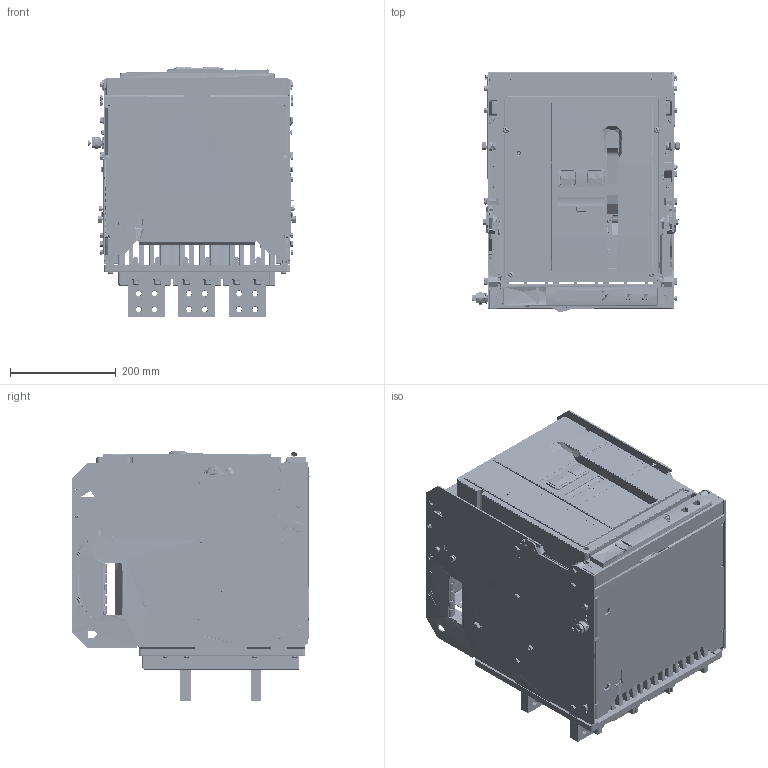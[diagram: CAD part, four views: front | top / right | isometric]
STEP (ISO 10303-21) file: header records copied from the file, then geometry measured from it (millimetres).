
FILE_DESCRIPTION (( 'STEP AP214' ), '1' );
FILE_NAME ('TeW5-2500_3P_Drawer(work).STEP', '2025-12-01T10:51:07', ( '' ), ( '' ), 'SwSTEP 2.0', 'SolidWorks 2024', '' );
FILE_SCHEMA (( 'AUTOMOTIVE_DESIGN' ));
Length unit declared in the file: millimetre
Products named in the file (93): 5TZD_558_1290_1_1_1_13.stp; 5TZD_558_1290_1_1_1_8.stp; GB_T9074_4-M6X40_1_1_1.stp; 8TZD_206_1394_1_1_1.stp; 8TZD_288_1020_1_1_2_ASM_1_ASM.stp; 5TZD_055_1033_ASM_1_1_ASM_1_ASM.stp; 8TZD_270_1052_1_1_1.stp; 8TZD_940_1003_1_1_1.stp; GB_T97_1_6_1_1_1.stp; 8TZD_206_1333_1_1_1.stp; 5TZD_558_1291_1_1_1.stp; 5TZD_558_1290_1_1_1_1.stp; 8TZD_580_1078_1_1_1_1.stp; 8TZD_024_6007_1_1_1.stp; 6TZD_229_1012_1_ASM_1_1_ASM_1_ASM.stp; 8TZD_161_1041_1_1_1.stp; GB_T93-6_1_1_1.stp; 5TZD_206_1001_ASM_1_1_ASM_1_ASM.stp; 5TZD_558_1290_1_1_1_14.stp; GB_T93-8_1_1_1.stp; 8TZD_001_1005_1_1_1.stp; 5TZD_020_1040_1_ASM_1_1_ASM_1_ASM.stp; GB_T819_1-M6X12_1_1_1.stp; 8TZD_940_1005_1_1_1.stp; 8TZD_206_1017_1_1_2_1_1.stp; 8TZD_288_1416_1_1_1.stp; 8TZD_064_1010_1_1_1.stp; 8TZD_206_1017_1_1_2_ASM_1_ASM.stp; GB_T70_1-M6X20_1_1_1.stp; 8TZD_005_1032_1_1_1.stp; 8TZD_231_1036_1_1_1.stp; 8TZD_043_1149_1_1_1.stp; 5TZD_558_1290_1_1_1_2.stp; ASM0001_ASM_1_ASM.stp; 5TZD_558_1290_1_1_1_10.stp; 5TZD_024_1257_ASM_1_1_ASM_1_ASM.stp; TeW5-2500_3P_Drawer(work); 5TZD_300_1055_ASM_1_1_ASM_1_ASM.stp; 5TZD_000_6000_1_1_1.stp; 5TZD_020_1039_ASM_1_1_ASM_1_ASM.stp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
Assembly tree (316 placements, depth 7):
  TeW5-2500_3P_Drawer(work)
    ASM0001_ASM_1_ASM.stp
      2TZD_257_1004_9_ASM_1_1_ASM_1_ASM.stp
        6TZD_229_1012_1_ASM_1_1_ASM_1_ASM.stp
          5TZD_020_1040_1_ASM_1_1_ASM_1_ASM.stp
            5TZD_020_1039_ASM_1_1_ASM_1_ASM.stp
              8TZD_020_1014_1_1_1.stp
              GB_T809-M6X12-B_1_1_1.stp  x24
            5TZD_260_1003_AF17_ASM_1_1_ASM__ASM.stp
              8TZD_001_1005_1_1_1.stp
              8TZD_311_1031_1_1_1.stp
            5TZD_260_1003_AF16_ASM_1_1_ASM__ASM.stp
              8TZD_001_1005_1_1_1.stp
              8TZD_311_1031_1_1_1.stp
            8TZD_580_1079_1_1_1_1.stp  x6
            GB_T819_1-M6X12_1_1_1.stp  x24
            8TZD_580_1078_1_1_1_1.stp  x6
            GB_T97_1_8_1_1_1.stp  x24
            GB_T93-8_1_1_1.stp  x24
            GB_T70_1-M8X25_1_1_1.stp  x24
          5TZD_300_1055_ASM_1_1_ASM_1_ASM.stp
            8TZD_300_1235_1_1_1.stp
            8TZD_270_1052_1_1_1.stp
            8TZD_270_1053_1_1_1.stp
            8TZD_206_1333_1_1_1.stp  x2
            8TZD_288_1183_AF0_1_1_1.stp
            8TZD_288_1183_AF1_1_1_1.stp
          5TZD_000_6000_1_1_1.stp
          8TZD_043_1149_1_1_1.stp
          GB_T9074_17_M6X25_1_1_1.stp  x4
          8TZD_947_1001_1_1_1.stp  x2
          GB_T9074_4-M4X14_1_1_1.stp  x2
          8TZD_288_1416_1_1_1.stp
          8TZD_288_1417_1_1_1.stp
          GB_T97_1_6_1_1_1.stp  x8
          GB_T93-6_1_1_1.stp  x8
          GB_T70_1-M6X20_1_1_1.stp  x8
        5TZD_024_1257_ASM_1_1_ASM_1_ASM.stp
          8TZD_024_6007_1_1_1.stp
          8TZD_947_1003_1_1_1.stp  x2
          8TZD_947_1002_1_1_1.stp  x7
        5TZD_055_1033_ASM_1_1_ASM_1_ASM.stp
          8TZD_055_1011_1_1_1.stp
          8TZD_947_1004_1_1_1.stp  x6
          8TZD_947_1002_1_1_1.stp  x3
          8TZD_947_1003_1_1_1.stp  x6
        5TZD_315_1007_ASM_1_1_ASM_1_ASM.stp
          5TZD_315_1763_1_1_1.stp
          GB_T809-M6X12-B_1_1_1.stp
        8TZD_288_1020_1_1_2_ASM_1_ASM.stp  x2
          8TZD_288_1020_1_1_2_1_1.stp
          8TZD_288_1020_1_1_2_2_1.stp
        5TZD_206_1001_ASM_1_1_ASM_1_ASM.stp
          8TZD_206_1017_1_1_2_ASM_1_ASM.stp
            8TZD_206_1017_1_1_2_1_1.stp
            8TZD_206_1017_1_1_2_2_1.stp
          8TZD_933_1000_1_1_1.stp
          8TZD_206_1394_1_1_1.stp
        5TZD_000_1005_ASM_1_1_ASM_1_ASM.stp
          5TZD_005_1018_ASM_1_1_ASM_1_ASM.stp
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Bounding box: 391.75 x 454.89 x 473.6 mm (x, y, z)
Topology: 135 solids, 1074 shells, 34504 faces, 90132 edges, 57156 vertices
Faces by surface type: plane 20922, cylinder 9387, torus 1765, cone 1653, bspline 575, sphere 202
Full cylindrical faces by diameter (mm): 1 x2
Entity records: 1147128 total; most frequent: CARTESIAN_POINT 453141, ORIENTED_EDGE 151920, DIRECTION 127952, EDGE_CURVE 76866, VERTEX_POINT 49029, LINE 44852, VECTOR 44852, AXIS2_PLACEMENT_3D 41550
